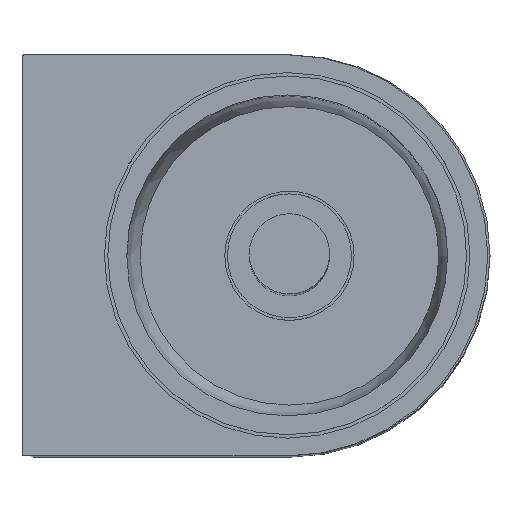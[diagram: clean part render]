
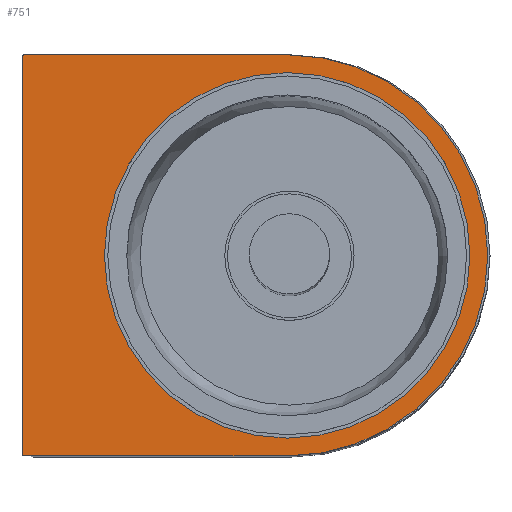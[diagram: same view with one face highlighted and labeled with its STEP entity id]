
A CAD part, top view. The second image highlights one B-rep face of the part: STEP entity #751.
In plain terms, the highlighted planar face has unit normal (0, 0, 1).
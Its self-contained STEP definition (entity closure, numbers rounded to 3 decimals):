
#219=LINE('',#3445,#399);
#223=LINE('',#3453,#403);
#225=LINE('',#3457,#405);
#399=VECTOR('',#2778,1.);
#403=VECTOR('',#2784,1.);
#405=VECTOR('',#2788,1.);
#535=PLANE('',#2323);
#631=FACE_OUTER_BOUND('',#970,.T.);
#751=ADVANCED_FACE('',(#631,#869),#535,.F.);
#869=FACE_BOUND('',#971,.T.);
#970=EDGE_LOOP('',(#1369,#1370,#1371,#1372,#1373,#1374));
#971=EDGE_LOOP('',(#1375));
#1369=ORIENTED_EDGE('',*,*,#1985,.T.);
#1370=ORIENTED_EDGE('',*,*,#1986,.T.);
#1371=ORIENTED_EDGE('',*,*,#1979,.F.);
#1372=ORIENTED_EDGE('',*,*,#1987,.F.);
#1373=ORIENTED_EDGE('',*,*,#1983,.F.);
#1374=ORIENTED_EDGE('',*,*,#1988,.T.);
#1375=ORIENTED_EDGE('',*,*,#1989,.T.);
#1738=VERTEX_POINT('',#3446);
#1739=VERTEX_POINT('',#3447);
#1740=VERTEX_POINT('',#3452);
#1741=VERTEX_POINT('',#3454);
#1742=VERTEX_POINT('',#3458);
#1743=VERTEX_POINT('',#3459);
#1744=VERTEX_POINT('',#3464);
#1979=EDGE_CURVE('',#1738,#1739,#219,.T.);
#1983=EDGE_CURVE('',#1740,#1741,#223,.T.);
#1985=EDGE_CURVE('',#1742,#1743,#225,.T.);
#1986=EDGE_CURVE('',#1743,#1739,#2152,.T.);
#1987=EDGE_CURVE('',#1741,#1738,#2153,.T.);
#1988=EDGE_CURVE('',#1740,#1742,#2154,.T.);
#1989=EDGE_CURVE('',#1744,#1744,#2155,.T.);
#2152=CIRCLE('',#2319,0.5);
#2153=CIRCLE('',#2320,45.);
#2154=CIRCLE('',#2321,0.5);
#2155=CIRCLE('',#2322,41.);
#2319=AXIS2_PLACEMENT_3D('',#3460,#2789,#2790);
#2320=AXIS2_PLACEMENT_3D('',#3461,#2791,#2792);
#2321=AXIS2_PLACEMENT_3D('',#3462,#2793,#2794);
#2322=AXIS2_PLACEMENT_3D('',#3463,#2795,#2796);
#2323=AXIS2_PLACEMENT_3D('',#3465,#2797,#2798);
#2778=DIRECTION('',(-1.,0.,0.));
#2784=DIRECTION('',(1.,0.,0.));
#2788=DIRECTION('',(0.,-1.,0.));
#2789=DIRECTION('',(0.,0.,1.));
#2790=DIRECTION('',(-1.,0.,0.));
#2791=DIRECTION('',(0.,0.,-1.));
#2792=DIRECTION('',(1.,0.,0.));
#2793=DIRECTION('',(0.,0.,1.));
#2794=DIRECTION('',(-1.,0.,0.));
#2795=DIRECTION('',(0.,0.,-1.));
#2796=DIRECTION('',(-1.,0.,0.));
#2797=DIRECTION('',(0.,0.,-1.));
#2798=DIRECTION('',(-1.,0.,0.));
#3445=CARTESIAN_POINT('',(320.14,553.8,-206.283));
#3446=CARTESIAN_POINT('',(320.14,553.8,-206.283));
#3447=CARTESIAN_POINT('',(261.14,553.8,-206.283));
#3452=CARTESIAN_POINT('',(261.14,643.8,-206.283));
#3453=CARTESIAN_POINT('',(263.14,643.8,-206.283));
#3454=CARTESIAN_POINT('',(320.14,643.8,-206.283));
#3457=CARTESIAN_POINT('',(260.64,556.8,-206.283));
#3458=CARTESIAN_POINT('',(260.64,643.3,-206.283));
#3459=CARTESIAN_POINT('',(260.64,554.3,-206.283));
#3460=CARTESIAN_POINT('',(261.14,554.3,-206.283));
#3461=CARTESIAN_POINT('',(320.14,598.8,-206.283));
#3462=CARTESIAN_POINT('',(261.14,643.3,-206.283));
#3463=CARTESIAN_POINT('',(320.14,598.8,-206.283));
#3464=CARTESIAN_POINT('',(279.14,598.8,-206.283));
#3465=CARTESIAN_POINT('',(320.14,598.8,-206.283));
